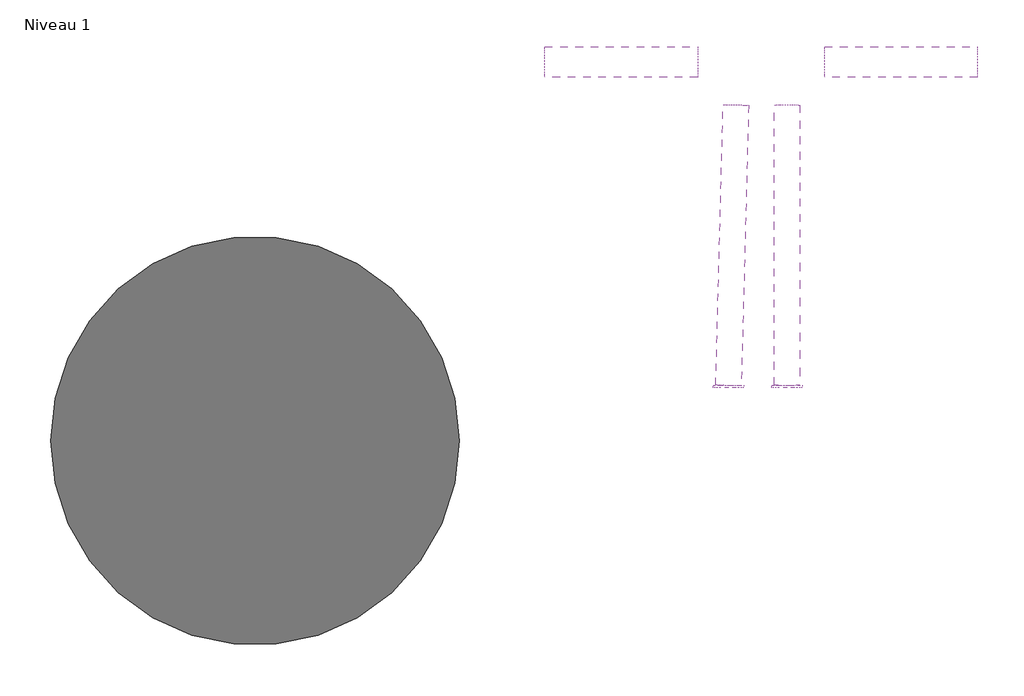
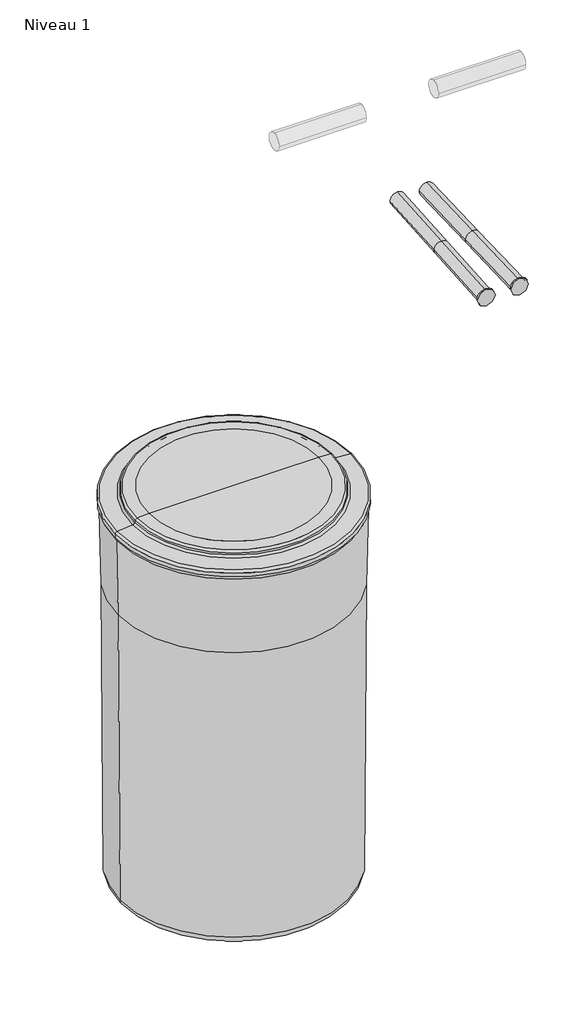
# One storey, incomplete: 6 pipe segments, 1 proxy.
"""IFC4 building model written with IfcOpenShell, lengths in millimetres."""

import ifcopenshell
import ifcopenshell.guid

model = None  # the IFC model being written
_history = None  # IfcOwnerHistory: only IFC2X3 demands one
_inside = {}  # id of a spatial element -> (the spatial element, [elements in it])
_under = {}  # id of a project, library or spatial element -> (it, [spatial elements below it])
_declared = {}  # id of a project -> (the project, [libraries it declares])
_typed = {}  # id of a type object -> (the type object, [elements of that type])
_made_of = {}  # id of a material, layer set ... -> (it, [elements and type objects made of it])


def new_model(schema):
    """Start an empty IFC model of exactly this schema.

    Asked for "IFC4X3", IfcOpenShell would pick the latest addendum, in which some entities
    have other attributes; the version numbers below select the first issue.
    IFC2X3 requires an IfcOwnerHistory on every rooted entity: one is made here for all.
    """
    global model, _history
    if schema == "IFC4X3":
        model = ifcopenshell.file(schema_version=(4, 3, 0, 0))
    else:
        model = ifcopenshell.file(schema=schema)
    _inside.clear()
    _under.clear()
    _declared.clear()
    _typed.clear()
    _made_of.clear()
    _history = None
    if model.schema == "IFC2X3":
        org = make("IfcOrganization", Name="unknown")
        user = make(
            "IfcPersonAndOrganization",
            ThePerson=make("IfcPerson", FamilyName="unknown"),
            TheOrganization=org,
        )
        app = make(
            "IfcApplication",
            ApplicationDeveloper=org,
            Version="unknown",
            ApplicationFullName="unknown",
            ApplicationIdentifier="unknown",
        )
        _history = make(
            "IfcOwnerHistory",
            OwningUser=user,
            OwningApplication=app,
            ChangeAction="ADDED",
            CreationDate=0,
        )
    return model


def make(cls, **values):
    """One entity of the class cls with the attributes given. An attribute that is None is left unset."""
    return model.create_entity(
        cls, **{name: value for name, value in values.items() if value is not None}
    )


def rooted(cls, **values):
    """An entity with a GlobalId (a new one), such as an element, a storey or a relation."""
    return make(cls, GlobalId=ifcopenshell.guid.new(), OwnerHistory=_history, **values)


def si_unit(unit_type, name, prefix=None):
    """IfcSIUnit, for example si_unit("LENGTHUNIT", "METRE", prefix="MILLI")."""
    return make("IfcSIUnit", UnitType=unit_type, Prefix=prefix, Name=name)


def assignment(units):
    """IfcUnitAssignment: the units of a project."""
    return None if units is None else make("IfcUnitAssignment", Units=units)


def point(xyz):
    """IfcCartesianPoint."""
    return None if xyz is None else make("IfcCartesianPoint", Coordinates=xyz)


def direction(xyz):
    """IfcDirection."""
    return None if xyz is None else make("IfcDirection", DirectionRatios=xyz)


def frame(location, z_axis=None, x_axis=None):
    """IfcAxis2Placement3D, a coordinate frame: its origin and axes. An axis left out is left unset."""
    return make(
        "IfcAxis2Placement3D",
        Location=point(location),
        Axis=direction(z_axis),
        RefDirection=direction(x_axis),
    )


def frame_2d(location, x_axis=None):
    """IfcAxis2Placement2D, a coordinate frame in the plane: its origin and x axis."""
    return make(
        "IfcAxis2Placement2D", Location=point(location), RefDirection=direction(x_axis)
    )


def origin():
    """The frame at (0, 0, 0) with its axes left unset."""
    return frame((0.0, 0.0, 0.0))


def place(relative_to, where):
    """IfcLocalPlacement: puts the frame where relative to a parent placement (None: the world)."""
    return make(
        "IfcLocalPlacement", PlacementRelTo=relative_to, RelativePlacement=where
    )


def context(
    kind, dimensions, precision=None, world=None, true_north=None, identifier=None
):
    """IfcGeometricRepresentationContext, for example the 3D "Model" context."""
    return make(
        "IfcGeometricRepresentationContext",
        ContextIdentifier=identifier,
        ContextType=kind,
        CoordinateSpaceDimension=dimensions,
        Precision=precision,
        WorldCoordinateSystem=world,
        TrueNorth=true_north,
    )


def project(units=None, contexts=None):
    """IfcProject with its units and contexts."""
    return rooted(
        "IfcProject",
        Name="project",
        RepresentationContexts=contexts,
        UnitsInContext=assignment(units),
    )


def spatial(cls, under=None, at=None, **own):
    """A site, building, storey or space (cls), placed at a placement, below another one or the project."""
    s = rooted(cls, ObjectPlacement=at, **own)
    if under is not None:
        _under.setdefault(under.id(), (under, []))[1].append(s)
    return s


def polyline(points):
    """IfcPolyline through the points."""
    return make("IfcPolyline", Points=[point(p) for p in points])


def circle_curve(where, radius):
    """IfcCircle in the frame where."""
    return make("IfcCircle", Position=where, Radius=radius)


def ellipse_curve(where, semi_axis1, semi_axis2):
    """IfcEllipse in the frame where."""
    return make(
        "IfcEllipse", Position=where, SemiAxis1=semi_axis1, SemiAxis2=semi_axis2
    )


def trimmed(basis, trim1, trim2, sense, master):
    """IfcTrimmedCurve: the piece of a basis curve between two trims."""
    return make(
        "IfcTrimmedCurve",
        BasisCurve=basis,
        Trim1=trim1,
        Trim2=trim2,
        SenseAgreement=sense,
        MasterRepresentation=master,
    )


def segment(curve, same_sense, transition):
    """IfcCompositeCurveSegment."""
    return make(
        "IfcCompositeCurveSegment",
        Transition=transition,
        SameSense=same_sense,
        ParentCurve=curve,
    )


def composite_curve(segments, self_intersect=None):
    """IfcCompositeCurve: segments joined end to end."""
    return make("IfcCompositeCurve", Segments=segments, SelfIntersect=self_intersect)


def outline(outer, holes=None, kind="AREA"):
    """IfcArbitraryClosedProfileDef: a profile drawn as a closed curve; with holes, ...WithVoids."""
    if holes is None:
        return make("IfcArbitraryClosedProfileDef", ProfileType=kind, OuterCurve=outer)
    return make(
        "IfcArbitraryProfileDefWithVoids",
        ProfileType=kind,
        OuterCurve=outer,
        InnerCurves=holes,
    )


def extrude(swept, where, along, depth):
    """IfcExtrudedAreaSolid: the profile swept, set in the frame where, extruded along a direction by depth."""
    return make(
        "IfcExtrudedAreaSolid",
        SweptArea=swept,
        Position=where,
        ExtrudedDirection=direction(along),
        Depth=depth,
    )


def shape(context_of_items, identifier, shape_type, items):
    """IfcShapeRepresentation: the items that make up one representation, for example the "Body"."""
    return make(
        "IfcShapeRepresentation",
        ContextOfItems=context_of_items,
        RepresentationIdentifier=identifier,
        RepresentationType=shape_type,
        Items=items,
    )


def source(mapping_origin, context_of_items, identifier, shape_type, items):
    """IfcRepresentationMap: a shape defined once, which mapped items show again and again."""
    return make(
        "IfcRepresentationMap",
        MappingOrigin=mapping_origin,
        MappedRepresentation=shape(context_of_items, identifier, shape_type, items),
    )


def transform(
    local_origin,
    x_axis=None,
    y_axis=None,
    z_axis=None,
    scale=None,
    scale2=None,
    scale3=None,
    uniform=True,
):
    """IfcCartesianTransformationOperator3D, or its non-uniform kind. x_axis, y_axis, z_axis: its Axis1, 2, 3."""
    if uniform:
        return make(
            "IfcCartesianTransformationOperator3D",
            Axis1=direction(x_axis),
            Axis2=direction(y_axis),
            LocalOrigin=point(local_origin),
            Scale=scale,
            Axis3=direction(z_axis),
        )
    return make(
        "IfcCartesianTransformationOperator3DnonUniform",
        Axis1=direction(x_axis),
        Axis2=direction(y_axis),
        LocalOrigin=point(local_origin),
        Scale=scale,
        Axis3=direction(z_axis),
        Scale2=scale2,
        Scale3=scale3,
    )


def mapped(mapping_source, mapping_target):
    """IfcMappedItem: shows the shape of a source again, moved by a transform."""
    return make(
        "IfcMappedItem", MappingSource=mapping_source, MappingTarget=mapping_target
    )


def made_of(thing, what):
    """Note that an element or type object is made of a material, layer set ...; save() writes the relation."""
    if what is not None:
        _made_of.setdefault(what.id(), (what, []))[1].append(thing)
    return thing


def element(
    cls,
    number,
    at=None,
    inside=None,
    cuts=None,
    type_object=None,
    material=None,
    context=None,
    identifier="Body",
    shape_type=None,
    held_by="IfcProductDefinitionShape",
    body=None,
    shapes=None,
    **own,
):
    """One element of the class cls, such as IfcWall. Its Tag is "e" and its number.

    at: its placement. inside: the storey or other place that contains it. cuts: it is an
    opening in that element (IfcRelVoidsElement). A single representation is given by context,
    identifier, shape_type and body (its items); several are given by shapes. held_by: the class
    of the entity that holds the representations. save() writes the other relations.
    """
    e = rooted(cls, Tag="e%d" % number, ObjectPlacement=at, **own)
    if body is not None:
        shapes = [shape(context, identifier, shape_type, body)]
    if shapes is not None:
        e.Representation = make(held_by, Representations=shapes)
    if inside is not None:
        _inside.setdefault(inside.id(), (inside, []))[1].append(e)
    if cuts is not None:
        rooted(
            "IfcRelVoidsElement", RelatingBuildingElement=cuts, RelatedOpeningElement=e
        )
    if type_object is not None:
        _typed.setdefault(type_object.id(), (type_object, []))[1].append(e)
    return made_of(e, material)


def aggregate(whole, parts):
    """IfcRelAggregates: a whole, such as a stair, and the parts it consists of."""
    return rooted("IfcRelAggregates", RelatingObject=whole, RelatedObjects=parts)


def save(model, path):
    """Write the relations noted so far, then the file.

    IfcRelAggregates (storeys below a building ...), IfcRelContainedInSpatialStructure (elements
    in a storey), IfcRelDefinesByType, IfcRelAssociatesMaterial and IfcRelDeclares: one each for
    every whole, place, type object, material and project.
    """
    for whole, parts in _under.values():
        aggregate(whole, parts)
    for where, things in _inside.values():
        rooted(
            "IfcRelContainedInSpatialStructure",
            RelatedElements=things,
            RelatingStructure=where,
        )
    for kind, things in _typed.values():
        rooted("IfcRelDefinesByType", RelatedObjects=things, RelatingType=kind)
    for what, things in _made_of.values():
        rooted("IfcRelAssociatesMaterial", RelatedObjects=things, RelatingMaterial=what)
    for by, libraries in _declared.values():
        rooted("IfcRelDeclares", RelatingContext=by, RelatedDefinitions=libraries)
    model.write(path)


def plane_surface(at):
    """IfcPlane: the flat surface through the origin of the frame at, square to its z axis."""
    return make("IfcPlane", Position=at)


def cylinder_surface(at, radius):
    """IfcCylindricalSurface: all points at the distance radius from the z axis of the frame at."""
    return make("IfcCylindricalSurface", Position=at, Radius=radius)


def revolved_surface(curve, axis_point, axis_direction):
    """IfcSurfaceOfRevolution: the curve turned about the line through axis_point along axis_direction."""
    return make(
        "IfcSurfaceOfRevolution",
        SweptCurve=make("IfcArbitraryOpenProfileDef", ProfileType="CURVE", Curve=curve),
        AxisPosition=make("IfcAxis1Placement", Location=point(axis_point), Axis=direction(axis_direction)),
    )


def advanced_brep(points, edges, surfaces, faces):
    """IfcAdvancedBrep: a solid bounded by faces that lie on surfaces and meet in shared edges.

    An edge is (start, end): straight between two places in points (the first is 0);
    or (start, end, curve); or (start, end, curve, False) where it runs against its curve.
    A face is (place in surfaces, loops), or (place, loops, False) where it looks against
    its surface's normal. A loop lists edges by number (the first is 1), with a minus sign
    where the edge is run from its end to its start. The first loop is the outer one.
    """
    corners = [point(p) for p in points]
    vertices = [make("IfcVertexPoint", VertexGeometry=c) for c in corners]
    made = []
    for start, end, *more in edges:
        made.append(
            make(
                "IfcEdgeCurve",
                EdgeStart=vertices[start],
                EdgeEnd=vertices[end],
                EdgeGeometry=more[0] if more else make("IfcPolyline", Points=[corners[start], corners[end]]),
                SameSense=more[1] if len(more) > 1 else True,
            )
        )
    hull = []
    for where, loops, *sense in faces:
        bounds = []
        for j, loop in enumerate(loops):
            ring = [make("IfcOrientedEdge", EdgeElement=made[abs(k) - 1], Orientation=k > 0) for k in loop]
            bounds.append(
                make(
                    "IfcFaceOuterBound" if j == 0 else "IfcFaceBound",
                    Bound=make("IfcEdgeLoop", EdgeList=ring),
                    Orientation=True,
                )
            )
        hull.append(make("IfcAdvancedFace", Bounds=bounds, FaceSurface=surfaces[where], SameSense=sense[0] if sense else True))
    return make("IfcAdvancedBrep", Outer=make("IfcClosedShell", CfsFaces=hull))


def proxy_1400_x_820_mm_5dbdbc59(model_context):
    return source(origin(), model_context, "Body", "AdvancedBrep", [
        advanced_brep(
        [(398.4607428, 0.0, 1068.7394346), (-398.4607428, 0.0, 1068.7394346), (-404.0, 0.0, 1340.0), (404.0, 0.0, 1340.0), (391.4173957, 0.0, 28.3474108), (-391.4173957, 0.0, 28.3474108), (0.0, 0.0, 0.0), (-363.5, 0.0, 0.0), (363.5, 0.0, 0.0), (292.2953745, 0.0, 1400.0), (-292.2953745, 0.0, 1400.0), (0.0, 0.0, 1400.0), (332.6452336, 0.0, 1397.7126502), (-332.6452336, 0.0, 1397.7126502), (340.105008, 0.0, 1391.1127994), (-340.105008, 0.0, 1391.1127994), (341.203396, 0.0, 1384.8835314), (-341.203396, 0.0, 1384.8835314), (348.3846121, 0.0, 1378.3031593), (-348.3846121, 0.0, 1378.3031593), (401.6972459, 0.0, 1373.6389082), (-401.6972459, 0.0, 1373.6389082), (409.0, 0.0, 1365.6693506), (-409.0, 0.0, 1365.6693506), (409.0, 0.0, 1352.0), (-409.0, 0.0, 1352.0), (406.5506787, 0.0, 1352.0), (-406.5506787, 0.0, 1352.0)],
        [
            (0, 1, circle_curve(frame((0.0, 0.0, 1068.7394346), z_axis=(0.0, 0.0, 1.0), x_axis=(-1.0, 0.0, 0.0)), 398.4607428)),
            (1, 2),
            (2, 3, circle_curve(frame((0.0, 0.0, 1340.0), z_axis=(0.0, 0.0, -1.0), x_axis=(-1.0, 0.0, 0.0)), 404.0)),
            (3, 0),
            (1, 0, circle_curve(frame((0.0, 0.0, 1068.7394346), z_axis=(0.0, 0.0, 1.0), x_axis=(-1.0, 0.0, 0.0)), 398.4607428)),
            (3, 2, circle_curve(frame((0.0, 0.0, 1340.0), z_axis=(0.0, 0.0, -1.0), x_axis=(-1.0, 0.0, 0.0)), 404.0)),
            (4, 5, circle_curve(frame((0.0, 0.0, 28.3474108), z_axis=(0.0, 0.0, 1.0), x_axis=(-1.0, 0.0, 0.0)), 391.4173957)),
            (5, 1),
            (0, 4),
            (5, 4, circle_curve(frame((0.0, 0.0, 28.3474108), z_axis=(0.0, 0.0, 1.0), x_axis=(-1.0, 0.0, 0.0)), 391.4173957)),
            (6, 7),
            (7, 8, circle_curve(frame((0.0, 0.0, 0.0), z_axis=(0.0, 0.0, -1.0), x_axis=(-1.0, 0.0, 0.0)), 363.5)),
            (8, 6),
            (8, 7, circle_curve(frame((0.0, 0.0, 0.0), z_axis=(0.0, 0.0, -1.0), x_axis=(-1.0, 0.0, 0.0)), 363.5)),
            (9, 10, circle_curve(frame((0.0, 0.0, 1400.0), z_axis=(0.0, 0.0, 1.0), x_axis=(-1.0, 0.0, 0.0)), 292.2953745)),
            (10, 11),
            (11, 9),
            (10, 9, circle_curve(frame((0.0, 0.0, 1400.0), z_axis=(0.0, 0.0, 1.0), x_axis=(-1.0, 0.0, 0.0)), 292.2953745)),
            (12, 13, circle_curve(frame((0.0, 0.0, 1397.7126502), z_axis=(0.0, 0.0, 1.0), x_axis=(-1.0, 0.0, 0.0)), 332.6452336)),
            (13, 10),
            (9, 12),
            (13, 12, circle_curve(frame((0.0, 0.0, 1397.7126502), z_axis=(0.0, 0.0, 1.0), x_axis=(-1.0, 0.0, 0.0)), 332.6452336)),
            (14, 15, circle_curve(frame((0.0, 0.0, 1391.1127994), z_axis=(0.0, 0.0, 1.0), x_axis=(-1.0, 0.0, 0.0)), 340.105008)),
            (15, 13, circle_curve(frame((-332.226546, 0.0, 1389.723614), z_axis=(0.0, 1.0, 0.0), x_axis=(1.0, 0.0, 0.0)), 8.0)),
            (12, 14, circle_curve(frame((332.226546, 0.0, 1389.723614), z_axis=(0.0, 1.0, 0.0), x_axis=(-1.0, 0.0, 0.0)), 8.0)),
            (15, 14, circle_curve(frame((0.0, 0.0, 1391.1127994), z_axis=(0.0, 0.0, 1.0), x_axis=(-1.0, 0.0, 0.0)), 340.105008)),
            (16, 17, circle_curve(frame((0.0, 0.0, 1384.8835314), z_axis=(0.0, 0.0, 1.0), x_axis=(-1.0, 0.0, 0.0)), 341.203396)),
            (17, 15),
            (14, 16),
            (17, 16, circle_curve(frame((0.0, 0.0, 1384.8835314), z_axis=(0.0, 0.0, 1.0), x_axis=(-1.0, 0.0, 0.0)), 341.203396)),
            (18, 19, circle_curve(frame((0.0, 0.0, 1378.3031593), z_axis=(0.0, 0.0, 1.0), x_axis=(-1.0, 0.0, 0.0)), 348.3846121)),
            (19, 17, circle_curve(frame((-349.081858, 0.0, 1386.2727169), z_axis=(0.0, -1.0, 0.0), x_axis=(1.0, 0.0, 0.0)), 8.0)),
            (16, 18, circle_curve(frame((349.081858, 0.0, 1386.2727169), z_axis=(0.0, -1.0, 0.0), x_axis=(-1.0, 0.0, 0.0)), 8.0)),
            (19, 18, circle_curve(frame((0.0, 0.0, 1378.3031593), z_axis=(0.0, 0.0, 1.0), x_axis=(-1.0, 0.0, 0.0)), 348.3846121)),
            (20, 21, circle_curve(frame((0.0, 0.0, 1373.6389082), z_axis=(0.0, 0.0, 1.0), x_axis=(-1.0, 0.0, 0.0)), 401.6972459)),
            (21, 19),
            (18, 20),
            (21, 20, circle_curve(frame((0.0, 0.0, 1373.6389082), z_axis=(0.0, 0.0, 1.0), x_axis=(-1.0, 0.0, 0.0)), 401.6972459)),
            (22, 23, circle_curve(frame((0.0, 0.0, 1365.6693506), z_axis=(0.0, 0.0, 1.0), x_axis=(-1.0, 0.0, 0.0)), 409.0)),
            (23, 21, circle_curve(frame((-401.0, 0.0, 1365.6693506), z_axis=(0.0, 1.0, 0.0), x_axis=(1.0, 0.0, 0.0)), 8.0)),
            (20, 22, circle_curve(frame((401.0, 0.0, 1365.6693506), z_axis=(0.0, 1.0, 0.0), x_axis=(-1.0, 0.0, 0.0)), 8.0)),
            (23, 22, circle_curve(frame((0.0, 0.0, 1365.6693506), z_axis=(0.0, 0.0, 1.0), x_axis=(-1.0, 0.0, 0.0)), 409.0)),
            (24, 25, circle_curve(frame((0.0, 0.0, 1352.0), z_axis=(0.0, 0.0, 1.0), x_axis=(-1.0, 0.0, 0.0)), 409.0)),
            (25, 23),
            (22, 24),
            (25, 24, circle_curve(frame((0.0, 0.0, 1352.0), z_axis=(0.0, 0.0, 1.0), x_axis=(-1.0, 0.0, 0.0)), 409.0)),
            (26, 27, circle_curve(frame((0.0, 0.0, 1352.0), z_axis=(0.0, 0.0, 1.0), x_axis=(-1.0, 0.0, 0.0)), 406.5506787)),
            (27, 25),
            (24, 26),
            (27, 26, circle_curve(frame((0.0, 0.0, 1352.0), z_axis=(0.0, 0.0, 1.0), x_axis=(-1.0, 0.0, 0.0)), 406.5506787)),
            (2, 27),
            (26, 3),
            (7, 5, circle_curve(frame((-362.424297, 0.0, 28.9800425), z_axis=(0.0, 1.0, 0.0), x_axis=(1.0, 0.0, 0.0)), 29.0)),
            (4, 8, circle_curve(frame((362.424297, 0.0, 28.9800425), z_axis=(0.0, 1.0, 0.0), x_axis=(-1.0, 0.0, 0.0)), 29.0)),
        ],
        [
            revolved_surface(polyline([(-404.0, 0.0, 1340.0), (-398.4607428, 0.0, 1068.7394346)]), (0.0, 0.0, 2824.3150031), (0.0, 0.0, -1.0)),
            revolved_surface(polyline([(-398.4607428, 0.0, 1068.7394346), (-391.4173957, 0.0, 28.3474108)]), (0.0, 0.0, 2824.3150031), (0.0, 0.0, -1.0)),
            plane_surface(frame((0.0, 0.0, 0.0), z_axis=(0.0, 0.0, -1.0), x_axis=(-1.0, 0.0, 0.0))),
            plane_surface(frame((0.0, 0.0, 1400.0), z_axis=(0.0, 0.0, 1.0), x_axis=(-1.0, 0.0, 0.0))),
            revolved_surface(polyline([(-292.2953745, 0.0, 1400.0), (-332.6452336, 0.0, 1397.7126502)]), (0.0, 0.0, 2824.3150031), (0.0, 0.0, -1.0)),
            revolved_surface(trimmed(ellipse_curve(frame((-332.226546, 0.0, 1389.723614), z_axis=(0.0, -1.0, 0.0), x_axis=(1.0, 0.0, 0.0)), 8.0, 8.0), [point((-332.6452336, 0.0, 1397.7126502))], [point((-340.105008, 0.0, 1391.1127994))], True, "CARTESIAN"), (0.0, 0.0, 2824.3150031), (0.0, 0.0, -1.0)),
            revolved_surface(polyline([(-340.105008, 0.0, 1391.1127994), (-341.203396, 0.0, 1384.8835314)]), (0.0, 0.0, 2824.3150031), (0.0, 0.0, -1.0)),
            revolved_surface(trimmed(ellipse_curve(frame((-349.081858, 0.0, 1386.2727169), z_axis=(0.0, 1.0, 0.0), x_axis=(1.0, 0.0, 0.0)), 8.0, 8.0), [point((-341.203396, 0.0, 1384.8835314))], [point((-348.3846121, 0.0, 1378.3031593))], True, "CARTESIAN"), (0.0, 0.0, 2824.3150031), (0.0, 0.0, -1.0)),
            revolved_surface(polyline([(-348.3846121, 0.0, 1378.3031593), (-401.6972459, 0.0, 1373.6389082)]), (0.0, 0.0, 2824.3150031), (0.0, 0.0, -1.0)),
            revolved_surface(trimmed(ellipse_curve(frame((-401.0, 0.0, 1365.6693506), z_axis=(0.0, -1.0, 0.0), x_axis=(1.0, 0.0, 0.0)), 8.0, 8.0), [point((-401.6972459, 0.0, 1373.6389082))], [point((-409.0, 0.0, 1365.6693506))], True, "CARTESIAN"), (0.0, 0.0, 2824.3150031), (0.0, 0.0, -1.0)),
            cylinder_surface(frame((0.0, 0.0, 2824.3150031), z_axis=(0.0, 0.0, -1.0), x_axis=(-1.0, 0.0, 0.0)), 409.0),
            plane_surface(frame((0.0, 0.0, 1352.0), z_axis=(0.0, 0.0, -1.0), x_axis=(-1.0, 0.0, 0.0))),
            revolved_surface(polyline([(-406.5506787, 0.0, 1352.0), (-404.0, 0.0, 1340.0)]), (0.0, 0.0, 2824.3150031), (0.0, 0.0, -1.0)),
            revolved_surface(trimmed(ellipse_curve(frame((-362.424297, 0.0, 28.9800425), z_axis=(0.0, -1.0, 0.0), x_axis=(1.0, 0.0, 0.0)), 29.0, 29.0), [point((-391.4173957, 0.0, 28.3474108))], [point((-363.5, 0.0, 0.0))], True, "CARTESIAN"), (0.0, 0.0, 2824.3150031), (0.0, 0.0, -1.0)),
        ],
        [
            (0, [[1, 2, 3, 4]]),
            (0, [[5, -4, 6, -2]]),
            (1, [[7, 8, -1, 9]]),
            (1, [[10, -9, -5, -8]]),
            (2, [[11, 12, 13]]),
            (2, [[-13, 14, -11]]),
            (3, [[15, 16, 17]]),
            (3, [[18, -17, -16]]),
            (4, [[19, 20, -15, 21]]),
            (4, [[22, -21, -18, -20]]),
            (5, [[23, 24, -19, 25]]),
            (5, [[26, -25, -22, -24]]),
            (6, [[27, 28, -23, 29]]),
            (6, [[30, -29, -26, -28]]),
            (7, [[31, 32, -27, 33]]),
            (7, [[34, -33, -30, -32]]),
            (8, [[35, 36, -31, 37]]),
            (8, [[38, -37, -34, -36]]),
            (9, [[39, 40, -35, 41]]),
            (9, [[42, -41, -38, -40]]),
            (10, [[43, 44, -39, 45]]),
            (10, [[46, -45, -42, -44]]),
            (11, [[47, 48, -43, 49]]),
            (11, [[50, -49, -46, -48]]),
            (12, [[-3, 51, -47, 52]]),
            (12, [[-6, -52, -50, -51]]),
            (13, [[-12, 53, -7, 54]]),
            (13, [[-14, -54, -10, -53]]),
        ],
    ),
    ])


model = new_model("IFC4")

# Units and contexts
model_context = context("Model", 3, world=origin())
ifc_project = project(units=[si_unit("LENGTHUNIT", "METRE", prefix="MILLI")], contexts=[model_context])

# Site, building, storey
site = spatial("IfcSite", under=ifc_project)
building = spatial("IfcBuilding", under=site)
storey = spatial("IfcBuildingStorey", under=building, Name="Niveau 1", Elevation=0.0)

# Proxy
placement = place(None, origin())
proxy_1400_x_820_mm_shape = proxy_1400_x_820_mm_5dbdbc59(model_context)
element("IfcBuildingElementProxy", 1, Name="BWT_Bac à sel type 1 : 1400 x 820 mm", ObjectType="BWT_Bac à sel type 1 : 1400 x 820 mm", at=placement, inside=storey, context=model_context, shape_type="MappedRepresentation", body=[
    mapped(proxy_1400_x_820_mm_shape, transform((18.5142372, -10873.8189334, 0.0), x_axis=(1.0, 0.0, 0.0), y_axis=(0.0, 1.0, 0.0), z_axis=(0.0, 0.0, 1.0))),
])

# Pipe segments
element("IfcPipeSegment", 2, ObjectType="Souple - Circulaire", at=placement, inside=storey, context=model_context, shape_type="AdvancedBrep", body=[
    advanced_brep(
    [(923.4765389, -10764.1247578, 1693.6), (948.4906166, -10763.9106692, 1668.6150028), (973.4595531, -10765.4279445, 1693.6), (948.4454755, -10765.6420331, 1718.5849972), (930.6427537, -10489.2685031, 1703.1297127), (955.6568313, -10489.0544145, 1678.1447155), (980.6257678, -10490.5716898, 1703.1297127), (955.6116902, -10490.7857784, 1728.1147099), (937.8089684, -10214.4118324, 1712.3207297), (962.7787062, -10215.8983732, 1737.3067736), (987.7919826, -10215.7150171, 1712.3207298), (962.8222448, -10214.2284763, 1687.3346859)],
    [
        (0, 1, circle_curve(frame((948.468046, -10764.7763512, 1693.6), z_axis=(-0.02604809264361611, -0.9990603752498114, -0.03463904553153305), x_axis=(-0.9996602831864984, 0.026063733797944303, 0.0)), 25.0)),
        (1, 2, circle_curve(frame((948.468046, -10764.7763512, 1693.6), z_axis=(-0.02604809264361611, -0.9990603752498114, -0.03463904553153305), x_axis=(-0.9996602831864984, 0.026063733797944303, 0.0)), 25.0)),
        (2, 3, circle_curve(frame((948.468046, -10764.7763512, 1693.6), z_axis=(-0.02604809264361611, -0.9990603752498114, -0.03463904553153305), x_axis=(-0.9996602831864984, 0.026063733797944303, 0.0)), 25.0)),
        (3, 0, circle_curve(frame((948.468046, -10764.7763512, 1693.6), z_axis=(-0.02604809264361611, -0.9990603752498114, -0.03463904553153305), x_axis=(-0.9996602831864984, 0.026063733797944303, 0.0)), 25.0)),
        (0, 4),
        (4, 5, circle_curve(frame((955.6342608, -10489.9200965, 1703.1297127), z_axis=(-0.02604809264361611, -0.9990603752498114, -0.03463904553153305), x_axis=(-0.9996602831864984, 0.026063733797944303, 0.0)), 25.0)),
        (5, 1),
        (5, 6, circle_curve(frame((955.6342608, -10489.9200965, 1703.1297127), z_axis=(-0.02604809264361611, -0.9990603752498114, -0.03463904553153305), x_axis=(-0.9996602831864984, 0.026063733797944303, 0.0)), 25.0)),
        (6, 2),
        (6, 7, circle_curve(frame((955.6342608, -10489.9200965, 1703.1297127), z_axis=(-0.02604809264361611, -0.9990603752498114, -0.03463904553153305), x_axis=(-0.9996602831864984, 0.026063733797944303, 0.0)), 25.0)),
        (7, 3),
        (7, 4, circle_curve(frame((955.6342608, -10489.9200965, 1703.1297127), z_axis=(-0.02604809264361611, -0.9990603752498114, -0.03463904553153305), x_axis=(-0.9996602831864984, 0.026063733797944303, 0.0)), 25.0)),
        (8, 9, circle_curve(frame((962.8004755, -10215.0634248, 1712.3207297), z_axis=(0.02604914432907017, 0.9991022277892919, 0.03340928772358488), x_axis=(-0.9996602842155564, 0.02606369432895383, -1.3441343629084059e-09)), 25.0)),
        (9, 10, circle_curve(frame((962.8004755, -10215.0634248, 1712.3207297), z_axis=(0.02604914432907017, 0.9991022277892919, 0.03340928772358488), x_axis=(-0.9996602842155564, 0.02606369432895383, -1.3441343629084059e-09)), 25.0)),
        (10, 11, circle_curve(frame((962.8004755, -10215.0634248, 1712.3207297), z_axis=(0.02604914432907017, 0.9991022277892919, 0.03340928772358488), x_axis=(-0.9996602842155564, 0.02606369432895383, -1.3441343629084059e-09)), 25.0)),
        (11, 8, circle_curve(frame((962.8004755, -10215.0634248, 1712.3207297), z_axis=(0.02604914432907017, 0.9991022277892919, 0.03340928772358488), x_axis=(-0.9996602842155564, 0.02606369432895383, -1.3441343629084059e-09)), 25.0)),
        (4, 8),
        (11, 5),
        (10, 6),
        (9, 7),
    ],
    [
        plane_surface(frame((948.468046, -10765.6426212, 1718.584987), z_axis=(-0.026048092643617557, -0.9990603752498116, -0.034639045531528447), x_axis=(0.9996606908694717, -0.02603245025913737, -0.0009025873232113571))),
        cylinder_surface(frame((948.468046, -10764.7763512, 1693.6), z_axis=(-0.026048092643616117, -0.9990603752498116, -0.034639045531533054), x_axis=(-0.9996602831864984, 0.026063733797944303, 0.0)), 25.0),
        plane_surface(frame((962.8004755, -10215.8989405, 1737.3067641), z_axis=(0.026049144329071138, 0.999102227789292, 0.03340928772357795), x_axis=(0.9996606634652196, -0.02603459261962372, -0.0008705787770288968))),
        cylinder_surface(frame((955.6342608, -10489.9200965, 1703.1297127), z_axis=(-0.02604914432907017, -0.9991022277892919, -0.03340928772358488), x_axis=(-0.9996602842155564, 0.02606369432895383, -1.3441343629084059e-09)), 25.0),
    ],
    [
        (0, [[1, 2, 3, 4]]),
        (1, [[-1, 5, 6, 7]]),
        (1, [[-2, -7, 8, 9]]),
        (1, [[-3, -9, 10, 11]]),
        (1, [[-4, -11, 12, -5]]),
        (2, [[13, 14, 15, 16]]),
        (3, [[-6, 17, -16, 18]]),
        (3, [[-8, -18, -15, 19]]),
        (3, [[-10, -19, -14, 20]]),
        (3, [[-12, -20, -13, -17]]),
    ],
),
])
element("IfcPipeSegment", 3, ObjectType="Souple - Circulaire", at=placement, inside=storey, context=model_context, shape_type="AdvancedBrep", body=[
    advanced_brep(
    [(1038.4680466, -10764.7818688, 1693.6), (1063.4678548, -10763.9100864, 1668.6150128), (1088.4680454, -10764.7708335, 1693.6), (1063.4682372, -10765.642616, 1718.5849872), (1038.4073845, -10489.925614, 1703.1296552), (1063.4071927, -10489.0538316, 1678.144668), (1088.4073832, -10489.9145788, 1703.1296552), (1063.407575, -10490.7863612, 1728.1146424), (1038.3467223, -10215.0689424, 1712.3207297), (1063.3469061, -10215.8989456, 1737.3067639), (1088.3467211, -10215.0579071, 1712.3207297), (1063.3465373, -10214.2279039, 1687.3346955)],
    [
        (0, 1, circle_curve(frame((1063.468046, -10764.7763512, 1693.6), z_axis=(0.00022057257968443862, -0.9993994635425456, -0.0346505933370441), x_axis=(-0.9999999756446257, -0.0002207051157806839, 0.0)), 25.0)),
        (1, 2, circle_curve(frame((1063.468046, -10764.7763512, 1693.6), z_axis=(0.00022057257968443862, -0.9993994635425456, -0.0346505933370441), x_axis=(-0.9999999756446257, -0.0002207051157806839, 0.0)), 25.0)),
        (2, 3, circle_curve(frame((1063.468046, -10764.7763512, 1693.6), z_axis=(0.00022057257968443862, -0.9993994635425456, -0.0346505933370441), x_axis=(-0.9999999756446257, -0.0002207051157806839, 0.0)), 25.0)),
        (3, 0, circle_curve(frame((1063.468046, -10764.7763512, 1693.6), z_axis=(0.00022057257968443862, -0.9993994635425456, -0.0346505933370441), x_axis=(-0.9999999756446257, -0.0002207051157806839, 0.0)), 25.0)),
        (0, 4),
        (4, 5, circle_curve(frame((1063.4073838, -10489.9200964, 1703.1296552), z_axis=(0.00022057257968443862, -0.9993994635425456, -0.0346505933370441), x_axis=(-0.9999999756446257, -0.0002207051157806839, 0.0)), 25.0)),
        (5, 1),
        (5, 6, circle_curve(frame((1063.4073838, -10489.9200964, 1703.1296552), z_axis=(0.00022057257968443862, -0.9993994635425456, -0.0346505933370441), x_axis=(-0.9999999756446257, -0.0002207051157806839, 0.0)), 25.0)),
        (6, 2),
        (6, 7, circle_curve(frame((1063.4073838, -10489.9200964, 1703.1296552), z_axis=(0.00022057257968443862, -0.9993994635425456, -0.0346505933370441), x_axis=(-0.9999999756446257, -0.0002207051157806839, 0.0)), 25.0)),
        (7, 3),
        (7, 4, circle_curve(frame((1063.4073838, -10489.9200964, 1703.1296552), z_axis=(0.00022057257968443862, -0.9993994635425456, -0.0346505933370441), x_axis=(-0.9999999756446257, -0.0002207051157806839, 0.0)), 25.0)),
        (8, 9, circle_curve(frame((1063.3467217, -10215.0634248, 1712.3207297), z_axis=(-0.00022058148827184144, 0.999441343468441, 0.03342083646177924), x_axis=(-0.9999999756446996, -0.00022070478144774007, 1.1385859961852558e-11)), 25.0)),
        (9, 10, circle_curve(frame((1063.3467217, -10215.0634248, 1712.3207297), z_axis=(-0.00022058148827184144, 0.999441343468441, 0.03342083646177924), x_axis=(-0.9999999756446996, -0.00022070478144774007, 1.1385859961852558e-11)), 25.0)),
        (10, 11, circle_curve(frame((1063.3467217, -10215.0634248, 1712.3207297), z_axis=(-0.00022058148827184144, 0.999441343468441, 0.03342083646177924), x_axis=(-0.9999999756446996, -0.00022070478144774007, 1.1385859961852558e-11)), 25.0)),
        (11, 8, circle_curve(frame((1063.3467217, -10215.0634248, 1712.3207297), z_axis=(-0.00022058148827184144, 0.999441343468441, 0.03342083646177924), x_axis=(-0.9999999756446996, -0.00022070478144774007, 1.1385859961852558e-11)), 25.0)),
        (4, 8),
        (11, 5),
        (10, 6),
        (9, 7),
    ],
    [
        plane_surface(frame((1063.468046, -10765.642616, 1718.5849872), z_axis=(0.000220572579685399, -0.9993994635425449, -0.0346505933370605), x_axis=(0.9999999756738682, 0.0002204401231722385, 7.642970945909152e-06))),
        cylinder_surface(frame((1063.468046, -10764.7763512, 1693.6), z_axis=(0.00022057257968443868, -0.9993994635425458, -0.03465059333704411), x_axis=(-0.9999999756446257, -0.0002207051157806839, 0.0)), 25.0),
        plane_surface(frame((1063.3467217, -10215.8989457, 1737.3067639), z_axis=(-0.00022058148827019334, 0.9994413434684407, 0.03342083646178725), x_axis=(0.9999999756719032, 0.0002204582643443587, 7.372018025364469e-06))),
        cylinder_surface(frame((1063.4073838, -10489.9200964, 1703.1296552), z_axis=(0.00022058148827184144, -0.999441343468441, -0.03342083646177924), x_axis=(-0.9999999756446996, -0.00022070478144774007, 1.1385859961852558e-11)), 25.0),
    ],
    [
        (0, [[1, 2, 3, 4]]),
        (1, [[-1, 5, 6, 7]]),
        (1, [[-2, -7, 8, 9]]),
        (1, [[-3, -9, 10, 11]]),
        (1, [[-4, -11, 12, -5]]),
        (2, [[13, 14, 15, 16]]),
        (3, [[-6, 17, -16, 18]]),
        (3, [[-8, -18, -15, 19]]),
        (3, [[-10, -19, -14, 20]]),
        (3, [[-12, -20, -13, -17]]),
    ],
),
])
element("IfcPipeSegment", 4, ObjectType="Standard", at=placement, inside=storey, context=model_context, shape_type="SweptSolid", body=[
    extrude(outline(composite_curve([segment(trimmed(circle_curve(frame_2d((0.0, 30.1625)), 30.1625), [point((30.1625, 30.1625))], [point((0.0, 0.0))], False, "CARTESIAN"), True, "CONTINUOUS"), segment(trimmed(circle_curve(frame_2d((0.0, 30.1625)), 30.1625), [point((0.0, 0.0))], [point((-30.1625, 30.1625))], False, "CARTESIAN"), True, "CONTINUOUS"), segment(trimmed(circle_curve(frame_2d((0.0, 30.1625)), 30.1625), [point((-30.1625, 30.1625))], [point((0.0, 60.3250001))], False, "CARTESIAN"), True, "CONTINUOUS"), segment(trimmed(circle_curve(frame_2d((0.0, 30.1625)), 30.1625), [point((0.0, 60.3250001))], [point((30.1625, 30.1625))], False, "CARTESIAN"), True, "CONTINUOUS")], self_intersect=False)), frame((1063.468046, -10769.8922313, 1723.7499948), z_axis=(0.0, 0.9999969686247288, 0.0024622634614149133), x_axis=(1.0, 0.0, 0.0)), (0.0, 0.0, 1.0), 5.0416274),
])
element("IfcPipeSegment", 5, ObjectType="Standard", at=placement, inside=storey, context=model_context, shape_type="SweptSolid", body=[
    extrude(outline(composite_curve([segment(trimmed(circle_curve(frame_2d((0.0, 30.1625)), 30.1625), [point((30.1625, 30.1625))], [point((0.0, 0.0))], False, "CARTESIAN"), True, "CONTINUOUS"), segment(trimmed(circle_curve(frame_2d((0.0, 30.1625)), 30.1625), [point((0.0, 0.0))], [point((-30.1625, 30.1625))], False, "CARTESIAN"), True, "CONTINUOUS"), segment(trimmed(circle_curve(frame_2d((0.0, 30.1625)), 30.1625), [point((-30.1625, 30.1625))], [point((0.0, 60.3250001))], False, "CARTESIAN"), True, "CONTINUOUS"), segment(trimmed(circle_curve(frame_2d((0.0, 30.1625)), 30.1625), [point((0.0, 60.3250001))], [point((30.1625, 30.1625))], False, "CARTESIAN"), True, "CONTINUOUS")], self_intersect=False)), frame((948.468046, -10769.8922313, 1723.7499948), z_axis=(0.0, 0.9999969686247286, 0.002462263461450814), x_axis=(1.0, 0.0, 0.0)), (0.0, 0.0, 1.0), 5.0416274),
])
element("IfcPipeSegment", 6, ObjectType="Standard", at=placement, inside=storey, context=model_context, shape_type="SweptSolid", body=[
    extrude(outline(composite_curve([segment(trimmed(circle_curve(frame_2d((-10130.1692691, 2000.0)), 30.1625), [point((-10160.3317691, 2000.0))], [point((-10130.1692691, 2030.1625))], False, "CARTESIAN"), True, "CONTINUOUS"), segment(trimmed(circle_curve(frame_2d((-10130.1692691, 2000.0)), 30.1625), [point((-10130.1692691, 2030.1625))], [point((-10100.0067691, 2000.0))], False, "CARTESIAN"), True, "CONTINUOUS"), segment(trimmed(circle_curve(frame_2d((-10130.1692691, 2000.0)), 30.1625), [point((-10100.0067691, 2000.0))], [point((-10130.1692691, 1969.8375))], False, "CARTESIAN"), True, "CONTINUOUS"), segment(trimmed(circle_curve(frame_2d((-10130.1692691, 2000.0)), 30.1625), [point((-10130.1692691, 1969.8375))], [point((-10160.3317691, 2000.0))], False, "CARTESIAN"), True, "CONTINUOUS")], self_intersect=False)), frame((1137.1632901, 0.0, 0.0), z_axis=(1.0, 0.0, 0.0), x_axis=(0.0, 1.0, 0.0)), (0.0, 0.0, 1.0), 300.0),
])
element("IfcPipeSegment", 7, ObjectType="Standard", at=placement, inside=storey, context=model_context, shape_type="SweptSolid", body=[
    extrude(outline(composite_curve([segment(trimmed(circle_curve(frame_2d((-10130.1692691, 2000.0)), 30.1625), [point((-10100.0067691, 2000.0))], [point((-10130.1692691, 1969.8375))], False, "CARTESIAN"), True, "CONTINUOUS"), segment(trimmed(circle_curve(frame_2d((-10130.1692691, 2000.0)), 30.1625), [point((-10130.1692691, 1969.8375))], [point((-10160.3317691, 2000.0))], False, "CARTESIAN"), True, "CONTINUOUS"), segment(trimmed(circle_curve(frame_2d((-10130.1692691, 2000.0)), 30.1625), [point((-10160.3317691, 2000.0))], [point((-10130.1692691, 2030.1625))], False, "CARTESIAN"), True, "CONTINUOUS"), segment(trimmed(circle_curve(frame_2d((-10130.1692691, 2000.0)), 30.1625), [point((-10130.1692691, 2030.1625))], [point((-10100.0067691, 2000.0))], False, "CARTESIAN"), True, "CONTINUOUS")], self_intersect=False)), frame((587.8004755, 0.0, 0.0), z_axis=(1.0, 0.0, 0.0), x_axis=(0.0, 1.0, 0.0)), (0.0, 0.0, 1.0), 300.0),
])

save(model, "model.ifc")
